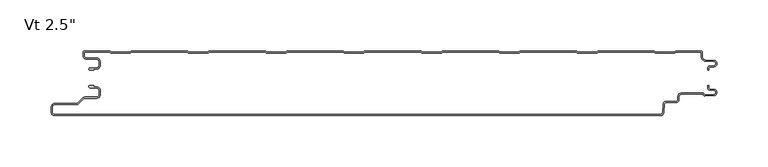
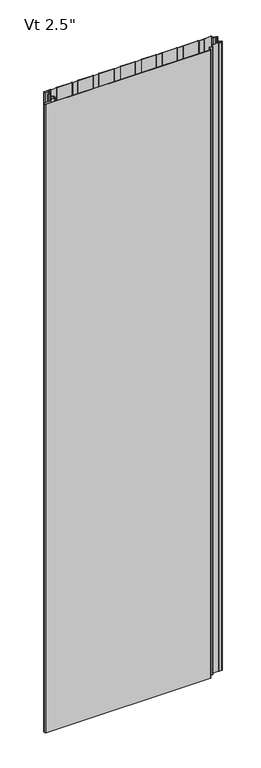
"""IFC4 building model written with IfcOpenShell, lengths in millimetres: plate geometry."""

from ifc_helpers import new_model, si_unit, point, frame, frame_2d, origin, origin_with_axes, place, context, project, spatial, polyline, circle_curve, trimmed, segment, composite_curve, outline, extrude, source, transform, mapped, element, save
from ifc_brep_helpers import plane_surface, cylinder_surface, revolved_surface, advanced_brep


def plate_6518c5e3(model_context):
    return source(origin(), model_context, "Body", "SolidModel", [
        advanced_brep(
        [(-302.7686912, -17.0015159, 2400.0), (-303.7686884, -18.0015191, 2400.0), (-302.7686912, -19.0015104, 2400.0), (-298.7684875, -19.0015105, 2400.0), (-298.7684875, -18.0015159, 2400.0), (-296.0762777, -18.0015159, 2400.0), (-292.776282, -14.7015202, 2400.0), (-292.776282, -10.301529, 2400.0), (-296.0762775, -7.0015335, 2400.0), (-306.4962564, -7.0015335, 2400.0), (-308.2662506, -5.2315393, 2400.0), (-308.2662506, -0.9999916, 2400.0), (-283.765974, -0.9999916, 2400.0), (-282.3803314, -2.2002307, 2400.0), (-263.0051651, -2.2002307, 2400.0), (-261.6195321, -1.0, 2400.0), (-207.5661167, -1.0, 2400.0), (-206.1804838, -2.2002307, 2400.0), (-186.8053175, -2.2002307, 2400.0), (-185.4196845, -1.0, 2400.0), (-131.3662691, -1.0, 2400.0), (-129.9806362, -2.2002307, 2400.0), (-110.6054699, -2.2002307, 2400.0), (-109.2198369, -1.0, 2400.0), (-55.1664215, -1.0, 2400.0), (-53.7807886, -2.2002307, 2400.0), (-34.4056223, -2.2002307, 2400.0), (-33.0199893, -1.0, 2400.0), (21.0334261, -1.0, 2400.0), (22.419059, -2.2002307, 2400.0), (41.7942253, -2.2002307, 2400.0), (43.1798583, -1.0, 2400.0), (97.2332737, -1.0, 2400.0), (98.6189066, -2.2002307, 2400.0), (117.9940729, -2.2002307, 2400.0), (119.3797059, -1.0, 2400.0), (173.4331213, -1.0, 2400.0), (174.8187542, -2.2002307, 2400.0), (194.1939205, -2.2002307, 2400.0), (195.5795535, -1.0, 2400.0), (249.6329689, -1.0, 2400.0), (251.0186018, -2.2002307, 2400.0), (270.3937681, -2.2002307, 2400.0), (271.7794011, -1.0, 2400.0), (296.2787013, -1.0, 2400.0), (296.2787013, -6.0026007, 2400.0), (300.1016499, -9.9974365, 2400.0), (308.5931719, -10.4046442, 2400.0), (308.5921924, -14.7059822, 2400.0), (304.4513685, -14.9256429, 2400.0), (302.7686884, -16.6743462, 2400.0), (302.7686884, -19.0015288, 2400.0), (303.7686884, -19.0015288, 2400.0), (303.7686884, -16.6743462, 2400.0), (304.4955779, -15.9247038, 2400.0), (308.6451655, -15.7045782, 2400.0), (308.6435732, -9.405912, 2400.0), (300.1495495, -8.9985844, 2400.0), (297.2787013, -6.0004836, 2400.0), (297.2787013, -1.4015652, 2400.0), (295.878797, -0.001568, 2400.0), (271.9275849, 2.09e-05, 2400.0), (271.0119353, -0.3417885, 2400.0), (270.0208877, -1.2002307, 2400.0), (251.3914823, -1.2002307, 2400.0), (250.4004346, -0.3417885, 2400.0), (249.4838177, 0.0, 2400.0), (195.7287046, 0.0, 2400.0), (194.8120877, -0.3417885, 2400.0), (193.8210401, -1.2002307, 2400.0), (175.1916347, -1.2002307, 2400.0), (174.200587, -0.3417885, 2400.0), (173.2839701, 0.0, 2400.0), (119.528857, 0.0, 2400.0), (118.6122401, -0.3417885, 2400.0), (117.6211925, -1.2002307, 2400.0), (98.9917871, -1.2002307, 2400.0), (98.0007394, -0.3417885, 2400.0), (97.0841225, 0.0, 2400.0), (43.3290094, 0.0, 2400.0), (42.4123925, -0.3417885, 2400.0), (41.4213449, -1.2002307, 2400.0), (22.7919395, -1.2002307, 2400.0), (21.8008918, -0.3417885, 2400.0), (20.8842749, 0.0, 2400.0), (-32.8708382, 0.0, 2400.0), (-33.7874551, -0.3417885, 2400.0), (-34.7785027, -1.2002307, 2400.0), (-53.4079081, -1.2002307, 2400.0), (-54.3989558, -0.3417885, 2400.0), (-55.3155727, 0.0, 2400.0), (-109.0706858, 0.0, 2400.0), (-109.9873027, -0.3417885, 2400.0), (-110.9783503, -1.2002307, 2400.0), (-129.6077557, -1.2002307, 2400.0), (-130.5988034, -0.3417885, 2400.0), (-131.5154203, 0.0, 2400.0), (-185.2705334, 0.0, 2400.0), (-186.1871503, -0.3417885, 2400.0), (-187.1781979, -1.2002307, 2400.0), (-205.8076033, -1.2002307, 2400.0), (-206.798651, -0.3417885, 2400.0), (-207.7152679, 0.0, 2400.0), (-261.470381, 0.0, 2400.0), (-262.3869979, -0.3417885, 2400.0), (-263.3780455, -1.2002307, 2400.0), (-282.0074509, -1.2002307, 2400.0), (-282.9984986, -0.3417885, 2400.0), (-283.9152069, 0.0, 2400.0), (-307.8662545, 8.4e-06, 2400.0), (-309.2662506, -1.3999878, 2400.0), (-309.2662506, -5.2315393, 2400.0), (-306.4962564, -8.0015335, 2400.0), (-296.0762775, -8.0015335, 2400.0), (-293.776282, -10.301529, 2400.0), (-293.776282, -14.7015202, 2400.0), (-296.0762777, -17.0015159, 2400.0), (-302.7686912, -17.0015159, 0.0), (-296.0762777, -17.0015159, 0.0), (-293.776282, -14.7015202, 0.0), (-293.776282, -10.301529, 0.0), (-296.0762775, -8.0015335, 0.0), (-306.4962564, -8.0015335, 0.0), (-309.2662506, -5.2315393, 0.0), (-309.2662506, -1.3999878, 0.0), (-307.8662545, 8.4e-06, 0.0), (-283.9151155, 8.4e-06, 0.0), (-282.9984986, -0.3417885, 0.0), (-282.0074509, -1.2002307, 0.0), (-263.3780455, -1.2002307, 0.0), (-262.3869979, -0.3417885, 0.0), (-261.470381, 0.0, 0.0), (-207.7152679, 0.0, 0.0), (-206.798651, -0.3417885, 0.0), (-205.8076033, -1.2002307, 0.0), (-187.1781979, -1.2002307, 0.0), (-186.1871503, -0.3417885, 0.0), (-185.2705334, 0.0, 0.0), (-131.5154203, 0.0, 0.0), (-130.5988034, -0.3417885, 0.0), (-129.6077557, -1.2002307, 0.0), (-110.9783503, -1.2002307, 0.0), (-109.9873027, -0.3417885, 0.0), (-109.0706858, 0.0, 0.0), (-55.3155727, 0.0, 0.0), (-54.3989558, -0.3417885, 0.0), (-53.4079081, -1.2002307, 0.0), (-34.7785027, -1.2002307, 0.0), (-33.7874551, -0.3417885, 0.0), (-32.8708382, 0.0, 0.0), (20.8842749, 0.0, 0.0), (21.8008918, -0.3417885, 0.0), (22.7919395, -1.2002307, 0.0), (41.4213449, -1.2002307, 0.0), (42.4123925, -0.3417885, 0.0), (43.3290094, 0.0, 0.0), (97.0841225, 0.0, 0.0), (98.0007394, -0.3417885, 0.0), (98.9917871, -1.2002307, 0.0), (117.6211925, -1.2002307, 0.0), (118.6122401, -0.3417885, 0.0), (119.528857, 0.0, 0.0), (173.2839701, 0.0, 0.0), (174.200587, -0.3417885, 0.0), (175.1916347, -1.2002307, 0.0), (193.8210401, -1.2002307, 0.0), (194.8120877, -0.3417885, 0.0), (195.7287046, 0.0, 0.0), (249.4838177, 0.0, 0.0), (250.4004346, -0.3417885, 0.0), (251.3914823, -1.2002307, 0.0), (270.0208877, -1.2002307, 0.0), (271.0119353, -0.3417885, 0.0), (271.9285522, 0.0, 0.0), (295.878797, 2.09e-05, 0.0), (297.2787013, -1.4015652, 0.0), (297.2787013, -6.0004836, 0.0), (300.1495495, -8.9985844, 0.0), (308.6435732, -9.405912, 0.0), (308.6451655, -15.7045782, 0.0), (304.4955779, -15.9247038, 0.0), (303.7686884, -16.6743462, 0.0), (303.7686884, -19.0015288, 0.0), (302.7686884, -19.0015288, 0.0), (302.7686884, -16.6743462, 0.0), (304.4513685, -14.9256429, 0.0), (308.5921924, -14.7059822, 0.0), (308.5931719, -10.4046442, 0.0), (300.1016499, -9.9974365, 0.0), (296.2787013, -6.0026007, 0.0), (296.2787013, -1.0, 0.0), (271.7794011, -1.0, 0.0), (270.3937681, -2.2002307, 0.0), (251.0186018, -2.2002307, 0.0), (249.6329689, -1.0, 0.0), (195.5795535, -1.0, 0.0), (194.1939205, -2.2002307, 0.0), (174.8187542, -2.2002307, 0.0), (173.4331213, -1.0, 0.0), (119.3797059, -1.0, 0.0), (117.9940729, -2.2002307, 0.0), (98.6189066, -2.2002307, 0.0), (97.2332737, -1.0, 0.0), (43.1798583, -1.0, 0.0), (41.7942253, -2.2002307, 0.0), (22.419059, -2.2002307, 0.0), (21.0334261, -1.0, 0.0), (-33.0199893, -1.0, 0.0), (-34.4056223, -2.2002307, 0.0), (-53.7807886, -2.2002307, 0.0), (-55.1664215, -1.0, 0.0), (-109.2198369, -1.0, 0.0), (-110.6054699, -2.2002307, 0.0), (-129.9806362, -2.2002307, 0.0), (-131.3662691, -1.0, 0.0), (-185.4196845, -1.0, 0.0), (-186.8053175, -2.2002307, 0.0), (-206.1804838, -2.2002307, 0.0), (-207.5661167, -1.0, 0.0), (-261.6195321, -1.0, 0.0), (-263.0051651, -2.2002307, 0.0), (-282.3803314, -2.2002307, 0.0), (-283.765974, -0.9999916, 0.0), (-308.2662506, -0.9999916, 0.0), (-308.2662506, -5.2315393, 0.0), (-306.4962564, -7.0015335, 0.0), (-296.0762775, -7.0015335, 0.0), (-292.776282, -10.301529, 0.0), (-292.776282, -14.7015202, 0.0), (-296.0762777, -18.0015159, 0.0), (-298.7684875, -18.0015159, 0.0), (-298.7684875, -19.0015105, 0.0), (-302.7686912, -19.0015105, 0.0), (-303.7686884, -18.0015191, 0.0)],
        [
            (0, 1, circle_curve(frame((-302.7686912, -18.0015132, 2400.0), z_axis=(0.0, 0.0, 1.0), x_axis=(1.0, 0.0, 0.0)), 0.9999973)),
            (1, 2, circle_curve(frame((-302.7686912, -18.0015132, 2400.0), z_axis=(0.0, 0.0, 1.0), x_axis=(1.0, 0.0, 0.0)), 0.9999972)),
            (2, 3),
            (3, 4),
            (4, 5),
            (5, 6, circle_curve(frame((-296.0762777, -14.7015202, 2400.0), z_axis=(0.0, 0.0, 1.0), x_axis=(1.0, 0.0, 0.0)), 3.2999957)),
            (6, 7),
            (7, 8, circle_curve(frame((-296.0762775, -10.301529, 2400.0), z_axis=(0.0, 0.0, 1.0), x_axis=(1.0, 0.0, 0.0)), 3.2999955)),
            (8, 9),
            (9, 10, circle_curve(frame((-306.4962564, -5.2315393, 2400.0), z_axis=(0.0, 0.0, -1.0), x_axis=(1.0, 0.0, 0.0)), 1.7699942)),
            (10, 11),
            (11, 12),
            (12, 13),
            (13, 14),
            (14, 15),
            (15, 16),
            (16, 17),
            (17, 18),
            (18, 19),
            (19, 20),
            (20, 21),
            (21, 22),
            (22, 23),
            (23, 24),
            (24, 25),
            (25, 26),
            (26, 27),
            (27, 28),
            (28, 29),
            (29, 30),
            (30, 31),
            (31, 32),
            (32, 33),
            (33, 34),
            (34, 35),
            (35, 36),
            (36, 37),
            (37, 38),
            (38, 39),
            (39, 40),
            (40, 41),
            (41, 42),
            (42, 43),
            (43, 44),
            (44, 45),
            (45, 46, circle_curve(frame((300.2939817, -5.9867338, 2400.0), z_axis=(0.0, 0.0, 1.0), x_axis=(1.0, 0.0, 0.0)), 4.0153117)),
            (46, 47),
            (47, 48, circle_curve(frame((308.4781032, -12.5552871, 2400.0), z_axis=(0.0, 0.0, -1.0), x_axis=(1.0, 0.0, 0.0)), 2.153719)),
            (48, 49),
            (49, 50, circle_curve(frame((304.5186869, -16.6743462, 2400.0), z_axis=(0.0, 0.0, 1.0), x_axis=(1.0, 0.0, 0.0)), 1.7499985)),
            (50, 51),
            (51, 52),
            (52, 53),
            (53, 54, circle_curve(frame((304.5186869, -16.6743462, 2400.0), z_axis=(0.0, 0.0, -1.0), x_axis=(1.0, 0.0, 0.0)), 0.7499985)),
            (54, 55),
            (55, 56, circle_curve(frame((308.4781032, -12.5552871, 2400.0), z_axis=(0.0, 0.0, 1.0), x_axis=(1.0, 0.0, 0.0)), 3.153719)),
            (56, 57),
            (57, 58, circle_curve(frame((300.2939817, -5.9867338, 2400.0), z_axis=(0.0, 0.0, -1.0), x_axis=(1.0, 0.0, 0.0)), 3.0153117)),
            (58, 59),
            (59, 60, circle_curve(frame((295.8787041, -1.4015652, 2400.0), z_axis=(0.0, 0.0, 1.0), x_axis=(1.0, 0.0, 0.0)), 1.3999972)),
            (60, 61),
            (61, 62, circle_curve(frame((271.9285522, -1.3999972, 2400.0), z_axis=(0.0, 0.0, 1.0), x_axis=(1.0, 0.0, 0.0)), 1.3999972)),
            (62, 63),
            (63, 64),
            (64, 65),
            (65, 66, circle_curve(frame((249.4838177, -1.3999972, 2400.0), z_axis=(0.0, 0.0, 1.0), x_axis=(1.0, 0.0, 0.0)), 1.3999972)),
            (66, 67),
            (67, 68, circle_curve(frame((195.7287046, -1.3999972, 2400.0), z_axis=(0.0, 0.0, 1.0), x_axis=(1.0, 0.0, 0.0)), 1.3999972)),
            (68, 69),
            (69, 70),
            (70, 71),
            (71, 72, circle_curve(frame((173.2839701, -1.3999972, 2400.0), z_axis=(0.0, 0.0, 1.0), x_axis=(1.0, 0.0, 0.0)), 1.3999972)),
            (72, 73),
            (73, 74, circle_curve(frame((119.528857, -1.3999972, 2400.0), z_axis=(0.0, 0.0, 1.0), x_axis=(1.0, 0.0, 0.0)), 1.3999972)),
            (74, 75),
            (75, 76),
            (76, 77),
            (77, 78, circle_curve(frame((97.0841225, -1.3999972, 2400.0), z_axis=(0.0, 0.0, 1.0), x_axis=(1.0, 0.0, 0.0)), 1.3999972)),
            (78, 79),
            (79, 80, circle_curve(frame((43.3290094, -1.3999972, 2400.0), z_axis=(0.0, 0.0, 1.0), x_axis=(1.0, 0.0, 0.0)), 1.3999972)),
            (80, 81),
            (81, 82),
            (82, 83),
            (83, 84, circle_curve(frame((20.8842749, -1.3999972, 2400.0), z_axis=(0.0, 0.0, 1.0), x_axis=(1.0, 0.0, 0.0)), 1.3999972)),
            (84, 85),
            (85, 86, circle_curve(frame((-32.8708382, -1.3999972, 2400.0), z_axis=(0.0, 0.0, 1.0), x_axis=(1.0, 0.0, 0.0)), 1.3999972)),
            (86, 87),
            (87, 88),
            (88, 89),
            (89, 90, circle_curve(frame((-55.3155727, -1.3999972, 2400.0), z_axis=(0.0, 0.0, 1.0), x_axis=(1.0, 0.0, 0.0)), 1.3999972)),
            (90, 91),
            (91, 92, circle_curve(frame((-109.0706858, -1.3999972, 2400.0), z_axis=(0.0, 0.0, 1.0), x_axis=(1.0, 0.0, 0.0)), 1.3999972)),
            (92, 93),
            (93, 94),
            (94, 95),
            (95, 96, circle_curve(frame((-131.5154203, -1.3999972, 2400.0), z_axis=(0.0, 0.0, 1.0), x_axis=(1.0, 0.0, 0.0)), 1.3999972)),
            (96, 97),
            (97, 98, circle_curve(frame((-185.2705334, -1.3999972, 2400.0), z_axis=(0.0, 0.0, 1.0), x_axis=(1.0, 0.0, 0.0)), 1.3999972)),
            (98, 99),
            (99, 100),
            (100, 101),
            (101, 102, circle_curve(frame((-207.7152679, -1.3999972, 2400.0), z_axis=(0.0, 0.0, 1.0), x_axis=(1.0, 0.0, 0.0)), 1.3999972)),
            (102, 103),
            (103, 104, circle_curve(frame((-261.470381, -1.3999972, 2400.0), z_axis=(0.0, 0.0, 1.0), x_axis=(1.0, 0.0, 0.0)), 1.3999972)),
            (104, 105),
            (105, 106),
            (106, 107),
            (107, 108, circle_curve(frame((-283.9151155, -1.3999972, 2400.0), z_axis=(0.0, 0.0, 1.0), x_axis=(1.0, 0.0, 0.0)), 1.3999972)),
            (108, 109),
            (109, 110, circle_curve(frame((-307.8662545, -1.3999878, 2400.0), z_axis=(0.0, 0.0, 1.0), x_axis=(1.0, 0.0, 0.0)), 1.3999962)),
            (110, 111),
            (111, 112, circle_curve(frame((-306.4962564, -5.2315393, 2400.0), z_axis=(0.0, 0.0, 1.0), x_axis=(1.0, 0.0, 0.0)), 2.7699942)),
            (112, 113),
            (113, 114, circle_curve(frame((-296.0762775, -10.301529, 2400.0), z_axis=(0.0, 0.0, -1.0), x_axis=(1.0, 0.0, 0.0)), 2.2999955)),
            (114, 115),
            (115, 116, circle_curve(frame((-296.0762777, -14.7015202, 2400.0), z_axis=(0.0, 0.0, -1.0), x_axis=(1.0, 0.0, 0.0)), 2.2999957)),
            (116, 0),
            (117, 118),
            (118, 119, circle_curve(frame((-296.0762777, -14.7015202, 0.0), z_axis=(0.0, 0.0, 1.0), x_axis=(1.0, 0.0, 0.0)), 2.2999957)),
            (119, 120),
            (120, 121, circle_curve(frame((-296.0762775, -10.301529, 0.0), z_axis=(0.0, 0.0, 1.0), x_axis=(1.0, 0.0, 0.0)), 2.2999955)),
            (121, 122),
            (122, 123, circle_curve(frame((-306.4962564, -5.2315393, 0.0), z_axis=(0.0, 0.0, -1.0), x_axis=(1.0, 0.0, 0.0)), 2.7699942)),
            (123, 124),
            (124, 125, circle_curve(frame((-307.8662545, -1.3999878, 0.0), z_axis=(0.0, 0.0, -1.0), x_axis=(1.0, 0.0, 0.0)), 1.3999962)),
            (125, 126),
            (126, 127, circle_curve(frame((-283.9151155, -1.3999972, 0.0), z_axis=(0.0, 0.0, -1.0), x_axis=(1.0, 0.0, 0.0)), 1.3999972)),
            (127, 128),
            (128, 129),
            (129, 130),
            (130, 131, circle_curve(frame((-261.470381, -1.3999972, 0.0), z_axis=(0.0, 0.0, -1.0), x_axis=(1.0, 0.0, 0.0)), 1.3999972)),
            (131, 132),
            (132, 133, circle_curve(frame((-207.7152679, -1.3999972, 0.0), z_axis=(0.0, 0.0, -1.0), x_axis=(1.0, 0.0, 0.0)), 1.3999972)),
            (133, 134),
            (134, 135),
            (135, 136),
            (136, 137, circle_curve(frame((-185.2705334, -1.3999972, 0.0), z_axis=(0.0, 0.0, -1.0), x_axis=(1.0, 0.0, 0.0)), 1.3999972)),
            (137, 138),
            (138, 139, circle_curve(frame((-131.5154203, -1.3999972, 0.0), z_axis=(0.0, 0.0, -1.0), x_axis=(1.0, 0.0, 0.0)), 1.3999972)),
            (139, 140),
            (140, 141),
            (141, 142),
            (142, 143, circle_curve(frame((-109.0706858, -1.3999972, 0.0), z_axis=(0.0, 0.0, -1.0), x_axis=(1.0, 0.0, 0.0)), 1.3999972)),
            (143, 144),
            (144, 145, circle_curve(frame((-55.3155727, -1.3999972, 0.0), z_axis=(0.0, 0.0, -1.0), x_axis=(1.0, 0.0, 0.0)), 1.3999972)),
            (145, 146),
            (146, 147),
            (147, 148),
            (148, 149, circle_curve(frame((-32.8708382, -1.3999972, 0.0), z_axis=(0.0, 0.0, -1.0), x_axis=(1.0, 0.0, 0.0)), 1.3999972)),
            (149, 150),
            (150, 151, circle_curve(frame((20.8842749, -1.3999972, 0.0), z_axis=(0.0, 0.0, -1.0), x_axis=(1.0, 0.0, 0.0)), 1.3999972)),
            (151, 152),
            (152, 153),
            (153, 154),
            (154, 155, circle_curve(frame((43.3290094, -1.3999972, 0.0), z_axis=(0.0, 0.0, -1.0), x_axis=(1.0, 0.0, 0.0)), 1.3999972)),
            (155, 156),
            (156, 157, circle_curve(frame((97.0841225, -1.3999972, 0.0), z_axis=(0.0, 0.0, -1.0), x_axis=(1.0, 0.0, 0.0)), 1.3999972)),
            (157, 158),
            (158, 159),
            (159, 160),
            (160, 161, circle_curve(frame((119.528857, -1.3999972, 0.0), z_axis=(0.0, 0.0, -1.0), x_axis=(1.0, 0.0, 0.0)), 1.3999972)),
            (161, 162),
            (162, 163, circle_curve(frame((173.2839701, -1.3999972, 0.0), z_axis=(0.0, 0.0, -1.0), x_axis=(1.0, 0.0, 0.0)), 1.3999972)),
            (163, 164),
            (164, 165),
            (165, 166),
            (166, 167, circle_curve(frame((195.7287046, -1.3999972, 0.0), z_axis=(0.0, 0.0, -1.0), x_axis=(1.0, 0.0, 0.0)), 1.3999972)),
            (167, 168),
            (168, 169, circle_curve(frame((249.4838177, -1.3999972, 0.0), z_axis=(0.0, 0.0, -1.0), x_axis=(1.0, 0.0, 0.0)), 1.3999972)),
            (169, 170),
            (170, 171),
            (171, 172),
            (172, 173, circle_curve(frame((271.9285522, -1.3999972, 0.0), z_axis=(0.0, 0.0, -1.0), x_axis=(1.0, 0.0, 0.0)), 1.3999972)),
            (173, 174),
            (174, 175, circle_curve(frame((295.8787041, -1.4015652, 0.0), z_axis=(0.0, 0.0, -1.0), x_axis=(1.0, 0.0, 0.0)), 1.3999972)),
            (175, 176),
            (176, 177, circle_curve(frame((300.2939817, -5.9867338, 0.0), z_axis=(0.0, 0.0, 1.0), x_axis=(1.0, 0.0, 0.0)), 3.0153117)),
            (177, 178),
            (178, 179, circle_curve(frame((308.4781032, -12.5552871, 0.0), z_axis=(0.0, 0.0, -1.0), x_axis=(1.0, 0.0, 0.0)), 3.153719)),
            (179, 180),
            (180, 181, circle_curve(frame((304.5186869, -16.6743462, 0.0), z_axis=(0.0, 0.0, 1.0), x_axis=(1.0, 0.0, 0.0)), 0.7499985)),
            (181, 182),
            (182, 183),
            (183, 184),
            (184, 185, circle_curve(frame((304.5186869, -16.6743462, 0.0), z_axis=(0.0, 0.0, -1.0), x_axis=(1.0, 0.0, 0.0)), 1.7499985)),
            (185, 186),
            (186, 187, circle_curve(frame((308.4781032, -12.5552871, 0.0), z_axis=(0.0, 0.0, 1.0), x_axis=(1.0, 0.0, 0.0)), 2.153719)),
            (187, 188),
            (188, 189, circle_curve(frame((300.2939817, -5.9867338, 0.0), z_axis=(0.0, 0.0, -1.0), x_axis=(1.0, 0.0, 0.0)), 4.0153117)),
            (189, 190),
            (190, 191),
            (191, 192),
            (192, 193),
            (193, 194),
            (194, 195),
            (195, 196),
            (196, 197),
            (197, 198),
            (198, 199),
            (199, 200),
            (200, 201),
            (201, 202),
            (202, 203),
            (203, 204),
            (204, 205),
            (205, 206),
            (206, 207),
            (207, 208),
            (208, 209),
            (209, 210),
            (210, 211),
            (211, 212),
            (212, 213),
            (213, 214),
            (214, 215),
            (215, 216),
            (216, 217),
            (217, 218),
            (218, 219),
            (219, 220),
            (220, 221),
            (221, 222),
            (222, 223),
            (223, 224),
            (224, 225, circle_curve(frame((-306.4962564, -5.2315393, 0.0), z_axis=(0.0, 0.0, 1.0), x_axis=(1.0, 0.0, 0.0)), 1.7699942)),
            (225, 226),
            (226, 227, circle_curve(frame((-296.0762775, -10.301529, 0.0), z_axis=(0.0, 0.0, -1.0), x_axis=(1.0, 0.0, 0.0)), 3.2999955)),
            (227, 228),
            (228, 229, circle_curve(frame((-296.0762777, -14.7015202, 0.0), z_axis=(0.0, 0.0, -1.0), x_axis=(1.0, 0.0, 0.0)), 3.2999957)),
            (229, 230),
            (230, 231),
            (231, 232),
            (232, 233, circle_curve(frame((-302.7686912, -18.0015132, 0.0), z_axis=(0.0, 0.0, -1.0), x_axis=(1.0, 0.0, 0.0)), 0.9999972)),
            (233, 117, circle_curve(frame((-302.7686912, -18.0015132, 0.0), z_axis=(0.0, 0.0, -1.0), x_axis=(1.0, 0.0, 0.0)), 0.9999973)),
            (116, 118),
            (117, 0),
            (115, 119),
            (114, 120),
            (113, 121),
            (112, 122),
            (111, 123),
            (110, 124),
            (109, 125),
            (108, 126),
            (90, 144),
            (143, 91),
            (107, 127),
            (106, 128),
            (105, 129),
            (103, 131),
            (130, 104),
            (101, 133),
            (132, 102),
            (86, 148),
            (147, 87),
            (142, 92),
            (141, 93),
            (96, 138),
            (137, 97),
            (89, 145),
            (88, 146),
            (85, 149),
            (136, 98),
            (99, 135),
            (134, 100),
            (95, 139),
            (94, 140),
            (2, 232),
            (231, 3),
            (1, 233),
            (84, 150),
            (83, 151),
            (82, 152),
            (81, 153),
            (80, 154),
            (79, 155),
            (78, 156),
            (77, 157),
            (76, 158),
            (75, 159),
            (74, 160),
            (73, 161),
            (72, 162),
            (71, 163),
            (70, 164),
            (69, 165),
            (68, 166),
            (67, 167),
            (66, 168),
            (65, 169),
            (64, 170),
            (63, 171),
            (62, 172),
            (61, 173),
            (60, 174),
            (59, 175),
            (58, 176),
            (57, 177),
            (56, 178),
            (55, 179),
            (54, 180),
            (53, 181),
            (52, 182),
            (51, 183),
            (50, 184),
            (49, 185),
            (48, 186),
            (47, 187),
            (46, 188),
            (45, 189),
            (44, 190),
            (43, 191),
            (42, 192),
            (41, 193),
            (40, 194),
            (39, 195),
            (38, 196),
            (37, 197),
            (36, 198),
            (35, 199),
            (34, 200),
            (33, 201),
            (32, 202),
            (31, 203),
            (30, 204),
            (29, 205),
            (28, 206),
            (27, 207),
            (26, 208),
            (25, 209),
            (24, 210),
            (23, 211),
            (22, 212),
            (21, 213),
            (20, 214),
            (19, 215),
            (18, 216),
            (17, 217),
            (16, 218),
            (15, 219),
            (14, 220),
            (13, 221),
            (12, 222),
            (11, 223),
            (10, 224),
            (9, 225),
            (8, 226),
            (7, 227),
            (6, 228),
            (5, 229),
            (4, 230),
        ],
        [
            plane_surface(frame((0.0, 0.0, 2400.0), z_axis=(0.0, 0.0, 1.0), x_axis=(0.0, 1.0, 0.0))),
            plane_surface(frame((0.0, 0.0, 0.0), z_axis=(0.0, 0.0, -1.0), x_axis=(0.0, 1.0, 0.0))),
            plane_surface(frame((-302.7686912, -17.0015159, 2400.0), z_axis=(0.0, 1.0, 0.0), x_axis=(0.0, 0.0, -1.0))),
            revolved_surface(polyline([(-293.776282, -14.7015202, 0.0), (-293.776282, -14.7015202, 2400.0)]), (-296.0762777, -14.7015202, 2400.0), (0.0, 0.0, -1.0)),
            plane_surface(frame((-293.776282, -14.7015202, 2400.0), z_axis=(-1.0, 0.0, 0.0), x_axis=(0.0, 0.0, -1.0))),
            revolved_surface(polyline([(-293.776282, -10.301529, 0.0), (-293.776282, -10.301529, 2400.0)]), (-296.0762775, -10.301529, 2400.0), (0.0, 0.0, -1.0)),
            plane_surface(frame((-296.0762775, -8.0015335, 2400.0), z_axis=(0.0, -1.0, 0.0), x_axis=(0.0, 0.0, -1.0))),
            cylinder_surface(frame((-306.4962564, -5.2315393, 2400.0), z_axis=(0.0, 0.0, 1.0), x_axis=(1.0, 0.0, 0.0)), 2.7699942),
            plane_surface(frame((-309.2662506, -5.2315393, 2400.0), z_axis=(-1.0, 0.0, 0.0), x_axis=(0.0, 0.0, -1.0))),
            cylinder_surface(frame((-307.8662545, -1.3999878, 2400.0), z_axis=(0.0, 0.0, 1.0), x_axis=(1.0, 0.0, 0.0)), 1.3999962),
            plane_surface(frame((-307.8662545, 8.4e-06, 2400.0), z_axis=(0.0, 1.0, 0.0), x_axis=(0.0, 0.0, -1.0))),
            plane_surface(frame((-109.0706858, 0.0, 2400.0), z_axis=(0.0, 1.0, 0.0), x_axis=(0.0, 0.0, -1.0))),
            cylinder_surface(frame((-283.9151155, -1.3999972, 2400.0), z_axis=(0.0, 0.0, 1.0), x_axis=(1.0, 0.0, 0.0)), 1.3999972),
            plane_surface(frame((-282.9984986, -0.3417885, 2400.0), z_axis=(0.6547276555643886, 0.755864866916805, 0.0), x_axis=(0.0, 0.0, -1.0))),
            plane_surface(frame((-272.6927482, -1.2002307, 2400.0), z_axis=(0.0, 1.0, 0.0), x_axis=(0.0, 0.0, -1.0))),
            cylinder_surface(frame((-261.470381, -1.3999972, 2400.0), z_axis=(0.0, 0.0, 1.0), x_axis=(1.0, 0.0, 0.0)), 1.3999972),
            plane_surface(frame((-263.3780455, -1.2002307, 2400.0), z_axis=(-0.6547276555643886, 0.755864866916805, 0.0), x_axis=(0.0, 0.0, -1.0))),
            cylinder_surface(frame((-207.7152679, -1.3999972, 2400.0), z_axis=(0.0, 0.0, 1.0), x_axis=(1.0, 0.0, 0.0)), 1.3999972),
            plane_surface(frame((-34.7785027, -1.2002307, 2400.0), z_axis=(-0.6547276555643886, 0.755864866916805, 0.0), x_axis=(0.0, 0.0, -1.0))),
            cylinder_surface(frame((-109.0706858, -1.3999972, 2400.0), z_axis=(0.0, 0.0, 1.0), x_axis=(1.0, 0.0, 0.0)), 1.3999972),
            plane_surface(frame((-110.9783503, -1.2002307, 2400.0), z_axis=(-0.6547276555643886, 0.755864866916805, 0.0), x_axis=(0.0, 0.0, -1.0))),
            plane_surface(frame((-185.2705334, 0.0, 2400.0), z_axis=(0.0, 1.0, 0.0), x_axis=(0.0, 0.0, -1.0))),
            cylinder_surface(frame((-55.3155727, -1.3999972, 2400.0), z_axis=(0.0, 0.0, 1.0), x_axis=(1.0, 0.0, 0.0)), 1.3999972),
            plane_surface(frame((-54.3989558, -0.3417885, 2400.0), z_axis=(0.6547276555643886, 0.755864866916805, 0.0), x_axis=(0.0, 0.0, -1.0))),
            plane_surface(frame((-44.0932054, -1.2002307, 2400.0), z_axis=(0.0, 1.0, 0.0), x_axis=(0.0, 0.0, -1.0))),
            cylinder_surface(frame((-32.8708382, -1.3999972, 2400.0), z_axis=(0.0, 0.0, 1.0), x_axis=(1.0, 0.0, 0.0)), 1.3999972),
            cylinder_surface(frame((-185.2705334, -1.3999972, 2400.0), z_axis=(0.0, 0.0, 1.0), x_axis=(1.0, 0.0, 0.0)), 1.3999972),
            plane_surface(frame((-196.4929006, -1.2002307, 2400.0), z_axis=(0.0, 1.0, 0.0), x_axis=(0.0, 0.0, -1.0))),
            plane_surface(frame((-206.798651, -0.3417885, 2400.0), z_axis=(0.6547276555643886, 0.755864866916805, 0.0), x_axis=(0.0, 0.0, -1.0))),
            plane_surface(frame((-187.1781979, -1.2002307, 2400.0), z_axis=(-0.6547276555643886, 0.755864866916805, 0.0), x_axis=(0.0, 0.0, -1.0))),
            plane_surface(frame((-261.470381, 0.0, 2400.0), z_axis=(0.0, 1.0, 0.0), x_axis=(0.0, 0.0, -1.0))),
            cylinder_surface(frame((-131.5154203, -1.3999972, 2400.0), z_axis=(0.0, 0.0, 1.0), x_axis=(1.0, 0.0, 0.0)), 1.3999972),
            plane_surface(frame((-130.5988034, -0.3417885, 2400.0), z_axis=(0.6547276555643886, 0.755864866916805, 0.0), x_axis=(0.0, 0.0, -1.0))),
            plane_surface(frame((-120.293053, -1.2002307, 2400.0), z_axis=(0.0, 1.0, 0.0), x_axis=(0.0, 0.0, -1.0))),
            plane_surface(frame((-298.7684875, -19.0015105, 2400.0), z_axis=(0.0, -1.0, 0.0), x_axis=(0.0, 0.0, -1.0))),
            cylinder_surface(frame((-302.7686912, -18.0015132, 2400.0), z_axis=(0.0, 0.0, 1.0), x_axis=(1.0, 0.0, 0.0)), 0.9999972),
            cylinder_surface(frame((-302.7686912, -18.0015132, 2400.0), z_axis=(0.0, 0.0, 1.0), x_axis=(1.0, 0.0, 0.0)), 0.9999973),
            plane_surface(frame((-32.8708382, 0.0, 2400.0), z_axis=(0.0, 1.0, 0.0), x_axis=(0.0, 0.0, -1.0))),
            cylinder_surface(frame((20.8842749, -1.3999972, 2400.0), z_axis=(0.0, 0.0, 1.0), x_axis=(1.0, 0.0, 0.0)), 1.3999972),
            plane_surface(frame((21.8008918, -0.3417885, 2400.0), z_axis=(0.6547276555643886, 0.755864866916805, 0.0), x_axis=(0.0, 0.0, -1.0))),
            plane_surface(frame((32.1066422, -1.2002307, 2400.0), z_axis=(0.0, 1.0, 0.0), x_axis=(0.0, 0.0, -1.0))),
            plane_surface(frame((41.4213449, -1.2002307, 2400.0), z_axis=(-0.6547276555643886, 0.755864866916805, 0.0), x_axis=(0.0, 0.0, -1.0))),
            cylinder_surface(frame((43.3290094, -1.3999972, 2400.0), z_axis=(0.0, 0.0, 1.0), x_axis=(1.0, 0.0, 0.0)), 1.3999972),
            plane_surface(frame((43.3290094, 0.0, 2400.0), z_axis=(0.0, 1.0, 0.0), x_axis=(0.0, 0.0, -1.0))),
            cylinder_surface(frame((97.0841225, -1.3999972, 2400.0), z_axis=(0.0, 0.0, 1.0), x_axis=(1.0, 0.0, 0.0)), 1.3999972),
            plane_surface(frame((98.0007394, -0.3417885, 2400.0), z_axis=(0.6547276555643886, 0.755864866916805, 0.0), x_axis=(0.0, 0.0, -1.0))),
            plane_surface(frame((108.3064898, -1.2002307, 2400.0), z_axis=(0.0, 1.0, 0.0), x_axis=(0.0, 0.0, -1.0))),
            plane_surface(frame((117.6211925, -1.2002307, 2400.0), z_axis=(-0.6547276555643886, 0.755864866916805, 0.0), x_axis=(0.0, 0.0, -1.0))),
            cylinder_surface(frame((119.528857, -1.3999972, 2400.0), z_axis=(0.0, 0.0, 1.0), x_axis=(1.0, 0.0, 0.0)), 1.3999972),
            plane_surface(frame((119.528857, 0.0, 2400.0), z_axis=(0.0, 1.0, 0.0), x_axis=(0.0, 0.0, -1.0))),
            cylinder_surface(frame((173.2839701, -1.3999972, 2400.0), z_axis=(0.0, 0.0, 1.0), x_axis=(1.0, 0.0, 0.0)), 1.3999972),
            plane_surface(frame((174.200587, -0.3417885, 2400.0), z_axis=(0.6547276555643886, 0.755864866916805, 0.0), x_axis=(0.0, 0.0, -1.0))),
            plane_surface(frame((184.5063374, -1.2002307, 2400.0), z_axis=(0.0, 1.0, 0.0), x_axis=(0.0, 0.0, -1.0))),
            plane_surface(frame((193.8210401, -1.2002307, 2400.0), z_axis=(-0.6547276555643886, 0.755864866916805, 0.0), x_axis=(0.0, 0.0, -1.0))),
            cylinder_surface(frame((195.7287046, -1.3999972, 2400.0), z_axis=(0.0, 0.0, 1.0), x_axis=(1.0, 0.0, 0.0)), 1.3999972),
            plane_surface(frame((195.7287046, 0.0, 2400.0), z_axis=(0.0, 1.0, 0.0), x_axis=(0.0, 0.0, -1.0))),
            cylinder_surface(frame((249.4838177, -1.3999972, 2400.0), z_axis=(0.0, 0.0, 1.0), x_axis=(1.0, 0.0, 0.0)), 1.3999972),
            plane_surface(frame((250.4004346, -0.3417885, 2400.0), z_axis=(0.6547276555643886, 0.755864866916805, 0.0), x_axis=(0.0, 0.0, -1.0))),
            plane_surface(frame((260.706185, -1.2002307, 2400.0), z_axis=(0.0, 1.0, 0.0), x_axis=(0.0, 0.0, -1.0))),
            plane_surface(frame((270.0208877, -1.2002307, 2400.0), z_axis=(-0.6547276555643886, 0.755864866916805, 0.0), x_axis=(0.0, 0.0, -1.0))),
            cylinder_surface(frame((271.9285522, -1.3999972, 2400.0), z_axis=(0.0, 0.0, 1.0), x_axis=(1.0, 0.0, 0.0)), 1.3999972),
            plane_surface(frame((271.9275849, 2.09e-05, 2400.0), z_axis=(0.0, 1.0, 0.0), x_axis=(0.0, 0.0, -1.0))),
            cylinder_surface(frame((295.8787041, -1.4015652, 2400.0), z_axis=(0.0, 0.0, 1.0), x_axis=(1.0, 0.0, 0.0)), 1.3999972),
            plane_surface(frame((297.2787013, -1.4015652, 2400.0), z_axis=(1.0, 0.0, 0.0), x_axis=(0.0, 0.0, -1.0))),
            revolved_surface(polyline([(303.3092934, -5.9867338, 0.0), (303.3092934, -5.9867338, 2400.0)]), (300.2939817, -5.9867338, 2400.0), (0.0, 0.0, -1.0)),
            plane_surface(frame((300.1495495, -8.9985844, 2400.0), z_axis=(0.047899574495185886, 0.9988521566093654, 0.0), x_axis=(0.0, 0.0, -1.0))),
            cylinder_surface(frame((308.4781032, -12.5552871, 2400.0), z_axis=(0.0, 0.0, 1.0), x_axis=(1.0, 0.0, 0.0)), 3.153719),
            plane_surface(frame((308.6451655, -15.7045782, 2400.0), z_axis=(0.05297310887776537, -0.9985959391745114, 0.0), x_axis=(0.0, 0.0, -1.0))),
            revolved_surface(polyline([(305.2686854, -16.6743462, 0.0), (305.2686854, -16.6743462, 2400.0)]), (304.5186869, -16.6743462, 2400.0), (0.0, 0.0, -1.0)),
            plane_surface(frame((303.7686884, -17.5871409, 2400.0), z_axis=(1.0, 0.0, 0.0), x_axis=(0.0, 0.0, -1.0))),
            plane_surface(frame((303.7686884, -19.0015288, 2400.0), z_axis=(0.0, -1.0, 0.0), x_axis=(0.0, 0.0, -1.0))),
            plane_surface(frame((302.7686884, -17.5871409, 2400.0), z_axis=(-1.0, 0.0, 0.0), x_axis=(0.0, 0.0, -1.0))),
            cylinder_surface(frame((304.5186869, -16.6743462, 2400.0), z_axis=(0.0, 0.0, 1.0), x_axis=(1.0, 0.0, 0.0)), 1.7499985),
            plane_surface(frame((304.4513685, -14.9256429, 2400.0), z_axis=(-0.05297310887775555, 0.998595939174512, 0.0), x_axis=(0.0, 0.0, -1.0))),
            revolved_surface(polyline([(310.63182220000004, -12.5552871, 0.0), (310.63182220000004, -12.5552871, 2400.0)]), (308.4781032, -12.5552871, 2400.0), (0.0, 0.0, -1.0)),
            plane_surface(frame((308.5931719, -10.4046442, 2400.0), z_axis=(-0.04789957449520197, -0.9988521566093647, 0.0), x_axis=(0.0, 0.0, -1.0))),
            cylinder_surface(frame((300.2939817, -5.9867338, 2400.0), z_axis=(0.0, 0.0, 1.0), x_axis=(1.0, 0.0, 0.0)), 4.0153117),
            plane_surface(frame((296.2787013, -6.0026007, 2400.0), z_axis=(-1.0, 0.0, 0.0), x_axis=(0.0, 0.0, -1.0))),
            plane_surface(frame((296.2787013, -1.0, 2400.0), z_axis=(0.0, -1.0, 0.0), x_axis=(0.0, 0.0, -1.0))),
            plane_surface(frame((271.7794011, -1.0, 2400.0), z_axis=(0.6547276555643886, -0.755864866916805, 0.0), x_axis=(0.0, 0.0, -1.0))),
            plane_surface(frame((270.3937681, -2.2002307, 2400.0), z_axis=(0.0, -1.0, 0.0), x_axis=(0.0, 0.0, -1.0))),
            plane_surface(frame((251.0186018, -2.2002307, 2400.0), z_axis=(-0.6547276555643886, -0.755864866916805, 0.0), x_axis=(0.0, 0.0, -1.0))),
            plane_surface(frame((249.6329689, -1.0, 2400.0), z_axis=(0.0, -1.0, 0.0), x_axis=(0.0, 0.0, -1.0))),
            plane_surface(frame((195.5795535, -1.0, 2400.0), z_axis=(0.6547276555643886, -0.755864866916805, 0.0), x_axis=(0.0, 0.0, -1.0))),
            plane_surface(frame((194.1939205, -2.2002307, 2400.0), z_axis=(0.0, -1.0, 0.0), x_axis=(0.0, 0.0, -1.0))),
            plane_surface(frame((174.8187542, -2.2002307, 2400.0), z_axis=(-0.6547276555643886, -0.755864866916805, 0.0), x_axis=(0.0, 0.0, -1.0))),
            plane_surface(frame((173.4331213, -1.0, 2400.0), z_axis=(0.0, -1.0, 0.0), x_axis=(0.0, 0.0, -1.0))),
            plane_surface(frame((119.3797059, -1.0, 2400.0), z_axis=(0.6547276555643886, -0.755864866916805, 0.0), x_axis=(0.0, 0.0, -1.0))),
            plane_surface(frame((117.9940729, -2.2002307, 2400.0), z_axis=(0.0, -1.0, 0.0), x_axis=(0.0, 0.0, -1.0))),
            plane_surface(frame((98.6189066, -2.2002307, 2400.0), z_axis=(-0.6547276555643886, -0.755864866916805, 0.0), x_axis=(0.0, 0.0, -1.0))),
            plane_surface(frame((97.2332737, -1.0, 2400.0), z_axis=(0.0, -1.0, 0.0), x_axis=(0.0, 0.0, -1.0))),
            plane_surface(frame((43.1798583, -1.0, 2400.0), z_axis=(0.6547276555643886, -0.755864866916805, 0.0), x_axis=(0.0, 0.0, -1.0))),
            plane_surface(frame((41.7942253, -2.2002307, 2400.0), z_axis=(0.0, -1.0, 0.0), x_axis=(0.0, 0.0, -1.0))),
            plane_surface(frame((22.419059, -2.2002307, 2400.0), z_axis=(-0.6547276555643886, -0.755864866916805, 0.0), x_axis=(0.0, 0.0, -1.0))),
            plane_surface(frame((21.0334261, -1.0, 2400.0), z_axis=(0.0, -1.0, 0.0), x_axis=(0.0, 0.0, -1.0))),
            plane_surface(frame((-33.0199893, -1.0, 2400.0), z_axis=(0.6547276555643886, -0.755864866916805, 0.0), x_axis=(0.0, 0.0, -1.0))),
            plane_surface(frame((-34.4056223, -2.2002307, 2400.0), z_axis=(0.0, -1.0, 0.0), x_axis=(0.0, 0.0, -1.0))),
            plane_surface(frame((-53.7807886, -2.2002307, 2400.0), z_axis=(-0.6547276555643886, -0.755864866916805, 0.0), x_axis=(0.0, 0.0, -1.0))),
            plane_surface(frame((-55.1664215, -1.0, 2400.0), z_axis=(0.0, -1.0, 0.0), x_axis=(0.0, 0.0, -1.0))),
            plane_surface(frame((-109.2198369, -1.0, 2400.0), z_axis=(0.6547276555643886, -0.755864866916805, 0.0), x_axis=(0.0, 0.0, -1.0))),
            plane_surface(frame((-110.6054699, -2.2002307, 2400.0), z_axis=(0.0, -1.0, 0.0), x_axis=(0.0, 0.0, -1.0))),
            plane_surface(frame((-129.9806362, -2.2002307, 2400.0), z_axis=(-0.6547276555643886, -0.755864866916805, 0.0), x_axis=(0.0, 0.0, -1.0))),
            plane_surface(frame((-131.3662691, -1.0, 2400.0), z_axis=(0.0, -1.0, 0.0), x_axis=(0.0, 0.0, -1.0))),
            plane_surface(frame((-185.4196845, -1.0, 2400.0), z_axis=(0.6547276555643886, -0.755864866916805, 0.0), x_axis=(0.0, 0.0, -1.0))),
            plane_surface(frame((-186.8053175, -2.2002307, 2400.0), z_axis=(0.0, -1.0, 0.0), x_axis=(0.0, 0.0, -1.0))),
            plane_surface(frame((-206.1804838, -2.2002307, 2400.0), z_axis=(-0.6547276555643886, -0.755864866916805, 0.0), x_axis=(0.0, 0.0, -1.0))),
            plane_surface(frame((-207.5661167, -1.0, 2400.0), z_axis=(0.0, -1.0, 0.0), x_axis=(0.0, 0.0, -1.0))),
            plane_surface(frame((-261.6195321, -1.0, 2400.0), z_axis=(0.6547276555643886, -0.755864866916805, 0.0), x_axis=(0.0, 0.0, -1.0))),
            plane_surface(frame((-263.0051651, -2.2002307, 2400.0), z_axis=(0.0, -1.0, 0.0), x_axis=(0.0, 0.0, -1.0))),
            plane_surface(frame((-282.3803314, -2.2002307, 2400.0), z_axis=(-0.6547276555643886, -0.755864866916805, 0.0), x_axis=(0.0, 0.0, -1.0))),
            plane_surface(frame((-283.765974, -0.9999916, 2400.0), z_axis=(0.0, -1.0, 0.0), x_axis=(0.0, 0.0, -1.0))),
            plane_surface(frame((-308.2662506, -0.9999916, 2400.0), z_axis=(1.0, 0.0, 0.0), x_axis=(0.0, 0.0, -1.0))),
            revolved_surface(polyline([(-304.7262622, -5.2315393, 0.0), (-304.7262622, -5.2315393, 2400.0)]), (-306.4962564, -5.2315393, 2400.0), (0.0, 0.0, -1.0)),
            plane_surface(frame((-306.4962564, -7.0015335, 2400.0), z_axis=(0.0, 1.0, 0.0), x_axis=(0.0, 0.0, -1.0))),
            cylinder_surface(frame((-296.0762775, -10.301529, 2400.0), z_axis=(0.0, 0.0, 1.0), x_axis=(1.0, 0.0, 0.0)), 3.2999955),
            plane_surface(frame((-292.776282, -10.301529, 2400.0), z_axis=(1.0, 0.0, 0.0), x_axis=(0.0, 0.0, -1.0))),
            cylinder_surface(frame((-296.0762777, -14.7015202, 2400.0), z_axis=(0.0, 0.0, 1.0), x_axis=(1.0, 0.0, 0.0)), 3.2999957),
            plane_surface(frame((-296.0762777, -18.0015159, 2400.0), z_axis=(0.0, -1.0, 0.0), x_axis=(0.0, 0.0, -1.0))),
            plane_surface(frame((-298.7684875, -18.0015159, 2400.0), z_axis=(1.0, 0.0, 0.0), x_axis=(0.0, 0.0, -1.0))),
        ],
        [
            (0, [[1, 2, 3, 4, 5, 6, 7, 8, 9, 10, 11, 12, 13, 14, 15, 16, 17, 18, 19, 20, 21, 22, 23, 24, 25, 26, 27, 28, 29, 30, 31, 32, 33, 34, 35, 36, 37, 38, 39, 40, 41, 42, 43, 44, 45, 46, 47, 48, 49, 50, 51, 52, 53, 54, 55, 56, 57, 58, 59, 60, 61, 62, 63, 64, 65, 66, 67, 68, 69, 70, 71, 72, 73, 74, 75, 76, 77, 78, 79, 80, 81, 82, 83, 84, 85, 86, 87, 88, 89, 90, 91, 92, 93, 94, 95, 96, 97, 98, 99, 100, 101, 102, 103, 104, 105, 106, 107, 108, 109, 110, 111, 112, 113, 114, 115, 116, 117]]),
            (1, [[118, 119, 120, 121, 122, 123, 124, 125, 126, 127, 128, 129, 130, 131, 132, 133, 134, 135, 136, 137, 138, 139, 140, 141, 142, 143, 144, 145, 146, 147, 148, 149, 150, 151, 152, 153, 154, 155, 156, 157, 158, 159, 160, 161, 162, 163, 164, 165, 166, 167, 168, 169, 170, 171, 172, 173, 174, 175, 176, 177, 178, 179, 180, 181, 182, 183, 184, 185, 186, 187, 188, 189, 190, 191, 192, 193, 194, 195, 196, 197, 198, 199, 200, 201, 202, 203, 204, 205, 206, 207, 208, 209, 210, 211, 212, 213, 214, 215, 216, 217, 218, 219, 220, 221, 222, 223, 224, 225, 226, 227, 228, 229, 230, 231, 232, 233, 234]]),
            (2, [[235, -118, 236, -117]]),
            (3, [[237, -119, -235, -116]]),
            (4, [[238, -120, -237, -115]]),
            (5, [[239, -121, -238, -114]]),
            (6, [[240, -122, -239, -113]]),
            (7, [[241, -123, -240, -112]]),
            (8, [[242, -124, -241, -111]]),
            (9, [[243, -125, -242, -110]]),
            (10, [[244, -126, -243, -109]]),
            (11, [[245, -144, 246, -91]]),
            (12, [[247, -127, -244, -108]]),
            (13, [[248, -128, -247, -107]]),
            (14, [[-106, 249, -129, -248]]),
            (15, [[250, -131, 251, -104]]),
            (16, [[-251, -130, -249, -105]]),
            (17, [[252, -133, 253, -102]]),
            (18, [[254, -148, 255, -87]]),
            (19, [[-246, -143, 256, -92]]),
            (20, [[-256, -142, 257, -93]]),
            (21, [[258, -138, 259, -97]]),
            (22, [[260, -145, -245, -90]]),
            (23, [[261, -146, -260, -89]]),
            (24, [[-88, -255, -147, -261]]),
            (25, [[262, -149, -254, -86]]),
            (26, [[-259, -137, 263, -98]]),
            (27, [[-100, 264, -135, 265]]),
            (28, [[-265, -134, -252, -101]]),
            (29, [[-263, -136, -264, -99]]),
            (30, [[-253, -132, -250, -103]]),
            (31, [[266, -139, -258, -96]]),
            (32, [[267, -140, -266, -95]]),
            (33, [[-94, -257, -141, -267]]),
            (34, [[268, -232, 269, -3]]),
            (35, [[270, -233, -268, -2]]),
            (36, [[-236, -234, -270, -1]]),
            (37, [[271, -150, -262, -85]]),
            (38, [[272, -151, -271, -84]]),
            (39, [[273, -152, -272, -83]]),
            (40, [[-82, 274, -153, -273]]),
            (41, [[275, -154, -274, -81]]),
            (42, [[276, -155, -275, -80]]),
            (43, [[277, -156, -276, -79]]),
            (44, [[278, -157, -277, -78]]),
            (45, [[279, -158, -278, -77]]),
            (46, [[-76, 280, -159, -279]]),
            (47, [[281, -160, -280, -75]]),
            (48, [[282, -161, -281, -74]]),
            (49, [[283, -162, -282, -73]]),
            (50, [[284, -163, -283, -72]]),
            (51, [[285, -164, -284, -71]]),
            (52, [[-70, 286, -165, -285]]),
            (53, [[287, -166, -286, -69]]),
            (54, [[288, -167, -287, -68]]),
            (55, [[289, -168, -288, -67]]),
            (56, [[290, -169, -289, -66]]),
            (57, [[291, -170, -290, -65]]),
            (58, [[-64, 292, -171, -291]]),
            (59, [[293, -172, -292, -63]]),
            (60, [[294, -173, -293, -62]]),
            (61, [[295, -174, -294, -61]]),
            (62, [[296, -175, -295, -60]]),
            (63, [[297, -176, -296, -59]]),
            (64, [[298, -177, -297, -58]]),
            (65, [[299, -178, -298, -57]]),
            (66, [[300, -179, -299, -56]]),
            (67, [[301, -180, -300, -55]]),
            (68, [[302, -181, -301, -54]]),
            (69, [[-53, 303, -182, -302]]),
            (70, [[304, -183, -303, -52]]),
            (71, [[-51, 305, -184, -304]]),
            (72, [[306, -185, -305, -50]]),
            (73, [[307, -186, -306, -49]]),
            (74, [[308, -187, -307, -48]]),
            (75, [[309, -188, -308, -47]]),
            (76, [[310, -189, -309, -46]]),
            (77, [[311, -190, -310, -45]]),
            (78, [[312, -191, -311, -44]]),
            (79, [[313, -192, -312, -43]]),
            (80, [[314, -193, -313, -42]]),
            (81, [[315, -194, -314, -41]]),
            (82, [[316, -195, -315, -40]]),
            (83, [[317, -196, -316, -39]]),
            (84, [[318, -197, -317, -38]]),
            (85, [[319, -198, -318, -37]]),
            (86, [[320, -199, -319, -36]]),
            (87, [[321, -200, -320, -35]]),
            (88, [[322, -201, -321, -34]]),
            (89, [[323, -202, -322, -33]]),
            (90, [[324, -203, -323, -32]]),
            (91, [[325, -204, -324, -31]]),
            (92, [[326, -205, -325, -30]]),
            (93, [[327, -206, -326, -29]]),
            (94, [[328, -207, -327, -28]]),
            (95, [[329, -208, -328, -27]]),
            (96, [[330, -209, -329, -26]]),
            (97, [[331, -210, -330, -25]]),
            (98, [[332, -211, -331, -24]]),
            (99, [[333, -212, -332, -23]]),
            (100, [[334, -213, -333, -22]]),
            (101, [[335, -214, -334, -21]]),
            (102, [[336, -215, -335, -20]]),
            (103, [[337, -216, -336, -19]]),
            (104, [[338, -217, -337, -18]]),
            (105, [[339, -218, -338, -17]]),
            (106, [[340, -219, -339, -16]]),
            (107, [[341, -220, -340, -15]]),
            (108, [[342, -221, -341, -14]]),
            (109, [[343, -222, -342, -13]]),
            (110, [[344, -223, -343, -12]]),
            (111, [[345, -224, -344, -11]]),
            (112, [[346, -225, -345, -10]]),
            (113, [[347, -226, -346, -9]]),
            (114, [[348, -227, -347, -8]]),
            (115, [[349, -228, -348, -7]]),
            (116, [[350, -229, -349, -6]]),
            (117, [[351, -230, -350, -5]]),
            (118, [[-269, -231, -351, -4]]),
        ],
    ),
        extrude(outline(composite_curve([segment(polyline([(-340.8087507, -59.6183604), (-340.3690675, -54.5944437)]), True, "CONTINUOUS"), segment(trimmed(circle_curve(frame_2d((-336.7198392, -55.2052448)), 3.6999926), [point((-340.3690675, -54.5944437))], [point((-336.7198392, -51.5052522))], False, "CARTESIAN"), True, "CONTINUOUS"), segment(polyline([(-336.7198392, -51.5052522), (-315.5773997, -51.5052522)]), True, "CONTINUOUS"), segment(trimmed(circle_curve(frame_2d((-315.5773997, -50.2052548)), 1.2999974), [point((-315.5773997, -51.5052522))], [point((-314.6581627, -51.1244918))], True, "CARTESIAN"), True, "CONTINUOUS"), segment(polyline([(-314.6581627, -51.1244918), (-309.8297453, -46.2960743)]), True, "CONTINUOUS"), segment(trimmed(circle_curve(frame_2d((-307.9205608, -48.2052588)), 2.6999946), [point((-309.8297453, -46.2960743))], [point((-307.9205608, -45.5052642))], False, "CARTESIAN"), True, "CONTINUOUS"), segment(polyline([(-307.9205608, -45.5052642), (-296.1096717, -45.5052642)]), True, "CONTINUOUS"), segment(trimmed(circle_curve(frame_2d((-296.1096717, -43.1552689)), 2.3499953), [point((-296.1096717, -45.5052642))], [point((-293.7596764, -43.1552689))], True, "CARTESIAN"), True, "CONTINUOUS"), segment(polyline([(-293.7596764, -43.1552689), (-293.7596764, -38.7552777)]), True, "CONTINUOUS"), segment(trimmed(circle_curve(frame_2d((-296.1096717, -38.7552777)), 2.3499953), [point((-293.7596764, -38.7552777))], [point((-296.1096717, -36.4052824))], True, "CARTESIAN"), True, "CONTINUOUS"), segment(polyline([(-296.1096717, -36.4052824), (-302.6289779, -36.4052824)]), True, "CONTINUOUS"), segment(trimmed(circle_curve(frame_2d((-302.5686908, -35.2068002)), 1.1999976), [point((-302.6289779, -36.4052824))], [point((-303.7683001, -35.1762782))], False, "CARTESIAN"), True, "CONTINUOUS"), segment(trimmed(circle_curve(frame_2d((-302.5686908, -35.2068002)), 1.1999976), [point((-303.7683001, -35.1762782))], [point((-302.5671761, -34.0068035))], False, "CARTESIAN"), True, "CONTINUOUS"), segment(polyline([(-302.5671761, -34.0068035), (-298.8087827, -34.0068035), (-298.8087827, -35.4052824), (-296.1096717, -35.4052824)]), True, "CONTINUOUS"), segment(trimmed(circle_curve(frame_2d((-296.1096717, -38.7552777)), 3.3499953), [point((-296.1096717, -35.4052824))], [point((-292.7596764, -38.7552777))], False, "CARTESIAN"), True, "CONTINUOUS"), segment(polyline([(-292.7596764, -38.7552777), (-292.7596764, -43.1552689)]), True, "CONTINUOUS"), segment(trimmed(circle_curve(frame_2d((-296.1096717, -43.1552689)), 3.3499953), [point((-292.7596764, -43.1552689))], [point((-296.1096717, -46.5052642))], False, "CARTESIAN"), True, "CONTINUOUS"), segment(polyline([(-296.1096717, -46.5052642), (-307.9205608, -46.5052642)]), True, "CONTINUOUS"), segment(trimmed(circle_curve(frame_2d((-307.9205608, -48.2052588)), 1.6999946), [point((-307.9205608, -46.5052642))], [point((-309.1226385, -47.0031811))], True, "CARTESIAN"), True, "CONTINUOUS"), segment(polyline([(-309.1226385, -47.0031811), (-314.6247096, -52.5052522), (-336.7198392, -52.5052522)]), True, "CONTINUOUS"), segment(trimmed(circle_curve(frame_2d((-336.7198392, -55.2052448)), 2.6999926), [point((-336.7198392, -52.5052522))], [point((-339.3765709, -54.7238542))], True, "CARTESIAN"), True, "CONTINUOUS"), segment(polyline([(-339.3765709, -54.7238542), (-339.8125699, -59.7056751)]), True, "CONTINUOUS"), segment(trimmed(circle_curve(frame_2d((-337.2521176, -59.9297607)), 2.5702393), [point((-339.8125699, -59.7056751))], [point((-337.309446, -62.4993606))], True, "CARTESIAN"), True, "CONTINUOUS"), segment(polyline([(-337.309446, -62.4993606), (256.3384359, -62.4993606)]), True, "CONTINUOUS"), segment(trimmed(circle_curve(frame_2d((256.3384359, -60.5493665)), 1.9499941), [point((256.3384359, -62.4993606))], [point((258.2810097, -60.7193197))], True, "CARTESIAN"), True, "CONTINUOUS"), segment(polyline([(258.2810097, -60.7193197), (259.0215397, -52.2550232)]), True, "CONTINUOUS"), segment(trimmed(circle_curve(frame_2d((262.0400056, -52.5191048)), 3.0299959), [point((259.0215397, -52.2550232))], [point((262.1657441, -49.4917189))], False, "CARTESIAN"), True, "CONTINUOUS"), segment(polyline([(262.1657441, -49.4917189), (272.2586765, -49.4917189)]), True, "CONTINUOUS"), segment(trimmed(circle_curve(frame_2d((272.2595944, -48.5425659)), 0.9491534), [point((272.2586765, -49.4917189))], [point((273.2087478, -48.5425659))], True, "CARTESIAN"), True, "CONTINUOUS"), segment(polyline([(273.2087478, -48.5425659), (273.2087475, -45.4011658)]), True, "CONTINUOUS"), segment(trimmed(circle_curve(frame_2d((277.2087415, -45.4011658)), 3.999994), [point((273.2087475, -45.4011658))], [point((277.2087415, -41.4011718))], False, "CARTESIAN"), True, "CONTINUOUS"), segment(polyline([(277.2087415, -41.4011718), (298.3895515, -41.4011718), (299.5334028, -43.3823803), (308.506811, -43.0271199)]), True, "CONTINUOUS"), segment(trimmed(circle_curve(frame_2d((308.4236622, -40.9268913)), 2.1018739), [point((308.506811, -43.0271199))], [point((308.5037148, -38.8265424))], True, "CARTESIAN"), True, "CONTINUOUS"), segment(polyline([(308.5037148, -38.8265424), (304.4977997, -38.5821274)]), True, "CONTINUOUS"), segment(trimmed(circle_curve(frame_2d((304.6099653, -36.7437539)), 1.8417922), [point((304.4977997, -38.5821274))], [point((302.7686884, -36.7873149))], False, "CARTESIAN"), True, "CONTINUOUS"), segment(polyline([(302.7686884, -36.7873149), (302.7686884, -34.0027683), (303.7686884, -34.0027683), (303.7686884, -36.7732011)]), True, "CONTINUOUS"), segment(trimmed(circle_curve(frame_2d((304.6099653, -36.7437539)), 0.8417922), [point((303.7686884, -36.7732011))], [point((304.5587, -37.5839836))], True, "CARTESIAN"), True, "CONTINUOUS"), segment(polyline([(304.5587, -37.5839836), (308.5543204, -37.8277704)]), True, "CONTINUOUS"), segment(trimmed(circle_curve(frame_2d((308.4236622, -40.9268913)), 3.1018739), [point((308.5543204, -37.8277704))], [point((308.5463704, -44.0263372))], False, "CARTESIAN"), True, "CONTINUOUS"), segment(polyline([(308.5463704, -44.0263372), (299.8344401, -44.3712455)]), True, "CONTINUOUS"), segment(trimmed(circle_curve(frame_2d((299.787224, -42.9220173)), 1.4499971), [point((299.8344401, -44.3712455))], [point((298.5314897, -43.6470159))], False, "CARTESIAN"), True, "CONTINUOUS"), segment(polyline([(298.5314897, -43.6470159), (297.8122013, -42.4011718), (277.2087415, -42.4011718)]), True, "CONTINUOUS"), segment(trimmed(circle_curve(frame_2d((277.2087415, -45.4011658)), 2.999994), [point((277.2087415, -42.4011718))], [point((274.2087475, -45.4011658))], True, "CARTESIAN"), True, "CONTINUOUS"), segment(polyline([(274.2087475, -45.4011658), (274.2087475, -48.5425659)]), True, "CONTINUOUS"), segment(trimmed(circle_curve(frame_2d((272.2595944, -48.5425659)), 1.9491534), [point((274.2087475, -48.5425659))], [point((272.258279, -50.4917189))], False, "CARTESIAN"), True, "CONTINUOUS"), segment(polyline([(272.258279, -50.4917189), (262.1429135, -50.4917189)]), True, "CONTINUOUS"), segment(trimmed(circle_curve(frame_2d((262.0400056, -52.5191048)), 2.0299959), [point((262.1429135, -50.4917189))], [point((260.0177344, -52.342179))], True, "CARTESIAN"), True, "CONTINUOUS"), segment(polyline([(260.0177344, -52.342179), (259.2771931, -60.8066053)]), True, "CONTINUOUS"), segment(trimmed(circle_curve(frame_2d((256.3384246, -60.5494964)), 2.9499941), [point((259.2771931, -60.8066053))], [point((256.3384265, -63.4994905))], False, "CARTESIAN"), True, "CONTINUOUS"), segment(polyline([(256.3384265, -63.4994905), (-337.252104, -63.4998701)]), True, "CONTINUOUS"), segment(trimmed(circle_curve(frame_2d((-337.2521063, -59.9296308)), 3.5702393), [point((-337.252104, -63.4998701))], [point((-340.8087507, -59.6183604))], False, "CARTESIAN"), True, "CONTINUOUS")], self_intersect=False)), origin_with_axes(), (0.0, 0.0, 1.0), 2400.0),
    ])


if __name__ == "__main__":
    model = new_model("IFC4")
    model_context = context("Model", 3, world=origin())
    ifc_project = project(units=[si_unit("LENGTHUNIT", "METRE", prefix="MILLI")], contexts=[model_context])
    site = spatial("IfcSite", under=ifc_project)
    building = spatial("IfcBuilding", under=site)
    placement = place(None, origin())
    plate_shape = plate_6518c5e3(model_context)
    element("IfcPlate", 1, ObjectType="KIP-24-Karrier-KP-R19-CP-Vt-FL3-8in_SL : Vt 2.5\"", at=placement, inside=building, context=model_context, shape_type="MappedRepresentation", body=[
        mapped(plate_shape, transform((0.0, 0.0, 0.0), x_axis=(1.0, 0.0, 0.0), y_axis=(0.0, 1.0, 0.0), z_axis=(0.0, 0.0, 1.0))),
    ])
    save(model, "model.ifc")
